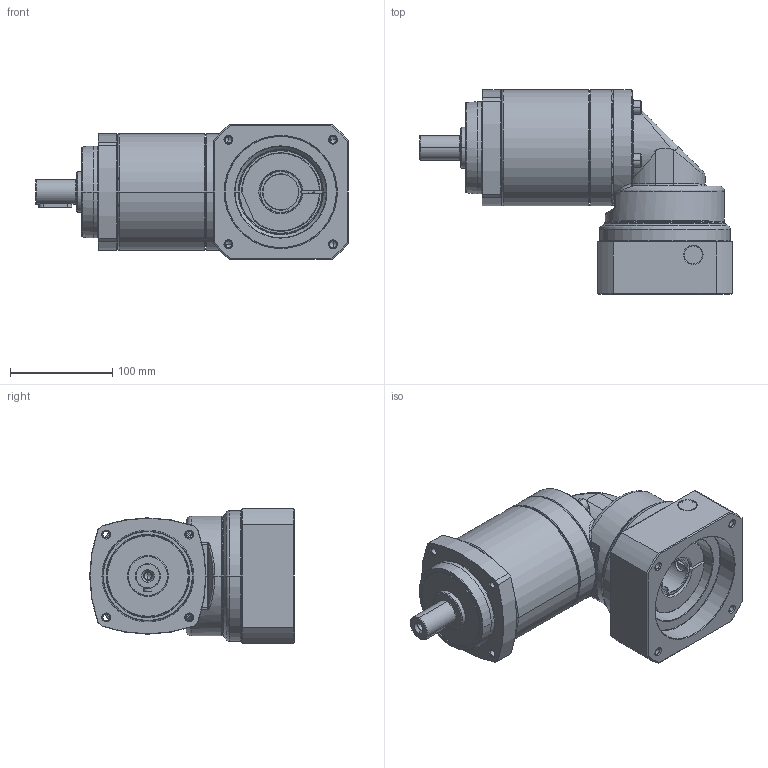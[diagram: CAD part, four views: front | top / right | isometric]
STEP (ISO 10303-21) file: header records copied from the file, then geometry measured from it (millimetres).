
FILE_DESCRIPTION((''),'2;1');
FILE_NAME('PS2R-D_2ST_35-P0411800101_ASM','2016-06-01T',('d01943'),(''),'PRO/ENGINEER BY PARAMETRIC TECHNOLOGY CORPORATION, 2008410','PRO/ENGINEER BY PARAMETRIC TECHNOLOGY CORPORATION, 2008410','');
FILE_SCHEMA(('CONFIG_CONTROL_DESIGN'));
Length unit declared in the file: millimetre
Products named in the file (12): P1328410001; P0251400001; P0350401401; P1349400001; P1017400001; P0713404001; P0503800010; P1350400401; P0411800101; P1702600001; 2111B108035; PS2R-D_2ST_35-P0411800101_ASM
Assembly tree (14 placements, depth 2):
  PS2R-D_2ST_35-P0411800101_ASM
    P1328410001
    P0251400001
    P0350401401
    P1349400001
    P1017400001
    P0713404001
    P0503800010
    P1350400401
    P0411800101
    P1702600001
    2111B108035  x4
Bounding box: 306 x 200.5 x 132 mm (x, y, z)
Volume: 2093278.7 mm3; surface area: 395096.2 mm2
Topology: 14 solids, 14 shells, 719 faces, 1587 edges, 918 vertices
Faces by surface type: cylinder 220, cone 212, plane 155, torus 98, bspline 34
Entity records: 23081 total; most frequent: CARTESIAN_POINT 9182, DIRECTION 3071, ORIENTED_EDGE 2698, EDGE_CURVE 1349, AXIS2_PLACEMENT_3D 1301, VERTEX_POINT 798, EDGE_LOOP 701, CIRCLE 689
